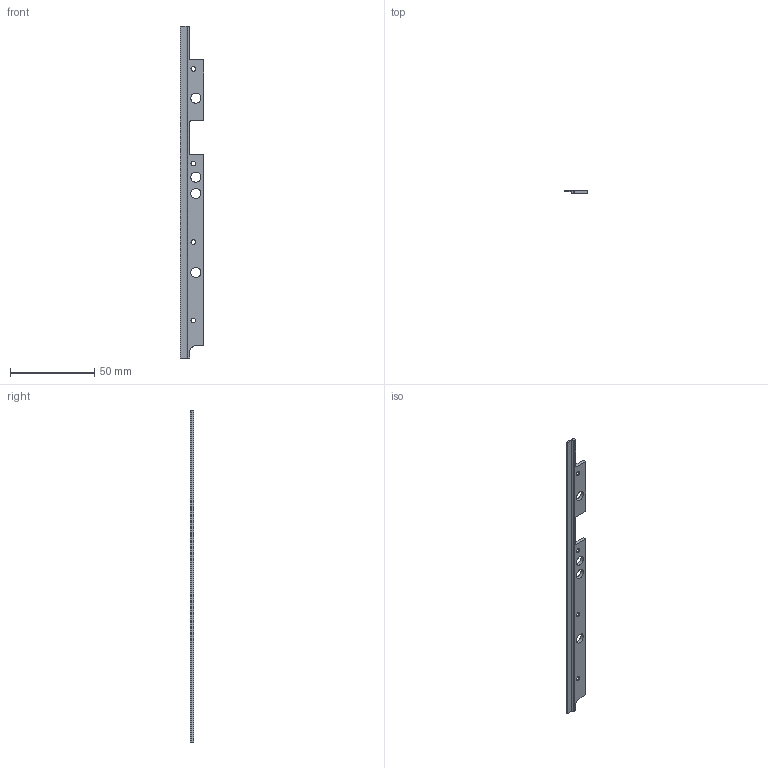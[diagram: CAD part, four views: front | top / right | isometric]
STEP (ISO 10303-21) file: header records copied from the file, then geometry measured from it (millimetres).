
FILE_DESCRIPTION(/* description */ (''),/* implementation_level */ '2;1');
FILE_NAME(/* name */ 'LAMINA#2.stp',/* time_stamp */ '2023-10-12T10:58:59+02:00',/* author */ (''),/* organization */ (''),/* preprocessor_version */ 'ST-DEVELOPER v19.4',/* originating_system */ 'SIEMENS PLM Software NX2306.5001',/* authorisation */ '');
FILE_SCHEMA (('AUTOMOTIVE_DESIGN { 1 0 10303 214 3 1 1 1 }'));
Length unit declared in the file: millimetre
Products named in the file (1): LAMINA#2_objects
Bounding box: 14 x 2 x 196.5 mm (x, y, z)
Volume: 3314.7 mm3; surface area: 5430.6 mm2
Topology: 1 solids, 1 shells, 33 faces, 101 edges, 70 vertices
Faces by surface type: plane 16, cylinder 13, cone 4
Full cylindrical faces by diameter (mm): 2.7 x4, 6 x4
Entity records: 1225 total; most frequent: DIRECTION 211, CARTESIAN_POINT 205, ORIENTED_EDGE 202, EDGE_CURVE 101, AXIS2_PLACEMENT_3D 76, VERTEX_POINT 70, LINE 59, VECTOR 59
